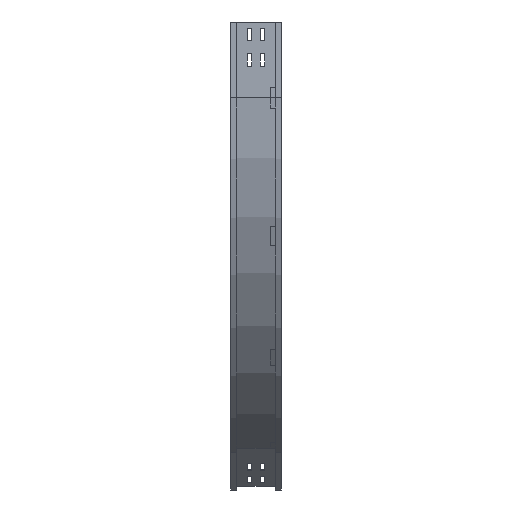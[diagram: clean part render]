
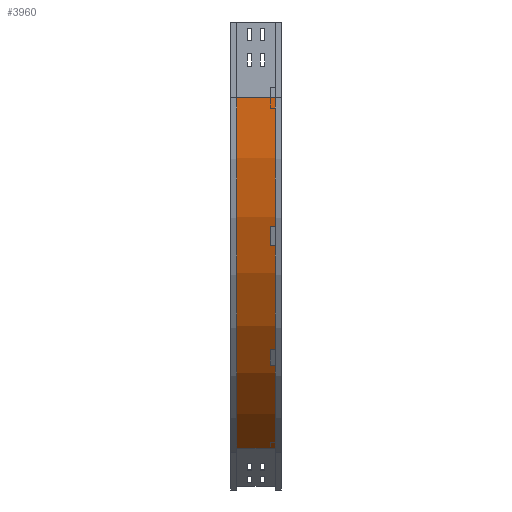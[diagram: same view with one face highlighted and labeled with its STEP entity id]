
A CAD part, left-side view. The second image highlights one B-rep face of the part: STEP entity #3960.
In plain terms, the highlighted cylindrical face has radius 800 mm (diameter 1600 mm), a partial arc.
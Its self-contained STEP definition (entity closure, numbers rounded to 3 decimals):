
#143 = CIRCLE ( 'NONE', #2686, 800. ) ;
#272 = CARTESIAN_POINT ( 'NONE',  ( 809., 0., -150. ) ) ;
#276 = AXIS2_PLACEMENT_3D ( 'NONE', #272, #1665, #935 ) ;
#425 = VECTOR ( 'NONE', #1181, 1000. ) ;
#615 = CARTESIAN_POINT ( 'NONE',  ( 809., 12., -150. ) ) ;
#641 = CARTESIAN_POINT ( 'NONE',  ( 409., 88., -842.82 ) ) ;
#757 = CARTESIAN_POINT ( 'NONE',  ( 809., 88., -150. ) ) ;
#842 = CARTESIAN_POINT ( 'NONE',  ( 409., 12., -842.82 ) ) ;
#865 = FACE_OUTER_BOUND ( 'NONE', #3164, .T. ) ;
#935 = DIRECTION ( 'NONE',  ( 0., 0., -1. ) ) ;
#1089 = AXIS2_PLACEMENT_3D ( 'NONE', #615, #4062, #2699 ) ;
#1181 = DIRECTION ( 'NONE',  ( 0., -1., 0. ) ) ;
#1198 = EDGE_CURVE ( 'NONE', #4505, #1493, #143, .T. ) ;
#1336 = VERTEX_POINT ( 'NONE', #842 ) ;
#1493 = VERTEX_POINT ( 'NONE', #641 ) ;
#1498 = DIRECTION ( 'NONE',  ( -1., 0., 0. ) ) ;
#1521 = LINE ( 'NONE', #4298, #425 ) ;
#1618 = CYLINDRICAL_SURFACE ( 'NONE', #276, 800. ) ;
#1622 = ORIENTED_EDGE ( 'NONE', *, *, #1198, .T. ) ;
#1665 = DIRECTION ( 'NONE',  ( 0., -1., 0. ) ) ;
#1800 = DIRECTION ( 'NONE',  ( 0., -1., 0. ) ) ;
#1847 = EDGE_CURVE ( 'NONE', #4505, #3875, #2929, .T. ) ;
#1907 = CARTESIAN_POINT ( 'NONE',  ( 9., 12., -150. ) ) ;
#2373 = EDGE_CURVE ( 'NONE', #3875, #1336, #3053, .T. ) ;
#2686 = AXIS2_PLACEMENT_3D ( 'NONE', #757, #1800, #1498 ) ;
#2699 = DIRECTION ( 'NONE',  ( -1., 0., 0. ) ) ;
#2915 = ORIENTED_EDGE ( 'NONE', *, *, #1847, .F. ) ;
#2929 = LINE ( 'NONE', #1907, #3919 ) ;
#3053 = CIRCLE ( 'NONE', #1089, 800. ) ;
#3164 = EDGE_LOOP ( 'NONE', ( #4349, #2915, #1622, #4452 ) ) ;
#3170 = CARTESIAN_POINT ( 'NONE',  ( 9., 88., -150. ) ) ;
#3875 = VERTEX_POINT ( 'NONE', #3915 ) ;
#3915 = CARTESIAN_POINT ( 'NONE',  ( 9., 12., -150. ) ) ;
#3919 = VECTOR ( 'NONE', #4318, 1000. ) ;
#3960 = ADVANCED_FACE ( 'NONE', ( #865 ), #1618, .T. ) ;
#4062 = DIRECTION ( 'NONE',  ( 0., -1., 0. ) ) ;
#4267 = EDGE_CURVE ( 'NONE', #1493, #1336, #1521, .T. ) ;
#4298 = CARTESIAN_POINT ( 'NONE',  ( 409., 12., -842.82 ) ) ;
#4318 = DIRECTION ( 'NONE',  ( 0., -1., 0. ) ) ;
#4349 = ORIENTED_EDGE ( 'NONE', *, *, #2373, .F. ) ;
#4452 = ORIENTED_EDGE ( 'NONE', *, *, #4267, .T. ) ;
#4505 = VERTEX_POINT ( 'NONE', #3170 ) ;
